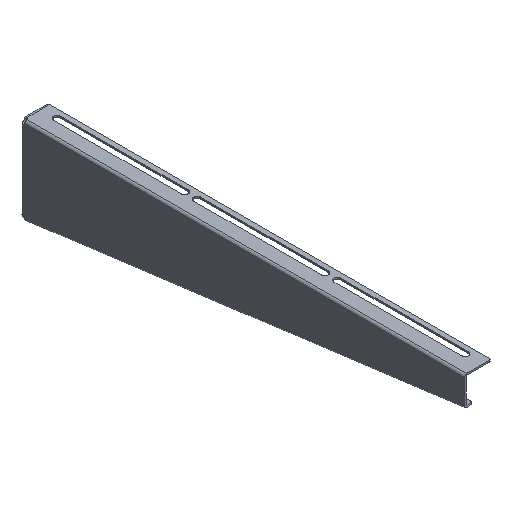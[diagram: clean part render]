
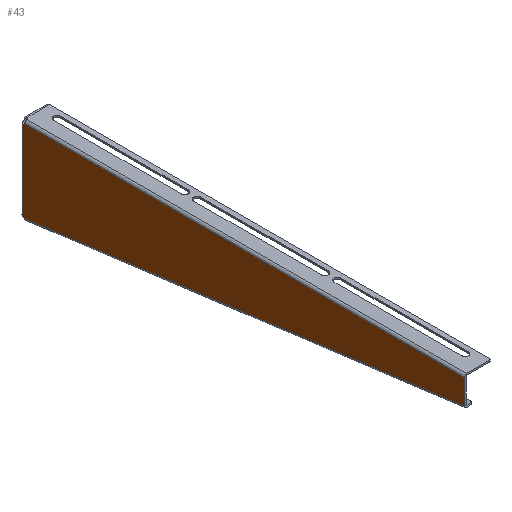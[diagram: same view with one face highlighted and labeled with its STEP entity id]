
A CAD part, isometric view. The second image highlights one B-rep face of the part: STEP entity #43.
In plain terms, the highlighted planar face has unit normal (-1, 0, 0).
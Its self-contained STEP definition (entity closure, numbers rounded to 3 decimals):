
#43=ADVANCED_FACE('',(#104),#947,.T.);
#104=FACE_OUTER_BOUND('',#165,.T.);
#165=EDGE_LOOP('',(#297,#298,#299,#300,#301,#302));
#297=ORIENTED_EDGE('',*,*,#565,.T.);
#298=ORIENTED_EDGE('',*,*,#574,.T.);
#299=ORIENTED_EDGE('',*,*,#566,.T.);
#300=ORIENTED_EDGE('',*,*,#567,.T.);
#301=ORIENTED_EDGE('',*,*,#543,.T.);
#302=ORIENTED_EDGE('',*,*,#568,.T.);
#543=EDGE_CURVE('',#852,#832,#684,.T.);
#565=EDGE_CURVE('',#835,#840,#760,.T.);
#566=EDGE_CURVE('',#843,#847,#761,.T.);
#567=EDGE_CURVE('',#847,#852,#762,.T.);
#568=EDGE_CURVE('',#832,#835,#763,.T.);
#574=EDGE_CURVE('',#840,#843,#769,.T.);
#684=B_SPLINE_CURVE_WITH_KNOTS('',3,(#1599,#1600,#1601,#1602),
 .UNSPECIFIED.,.F.,.F.,(4,4),(0.,544.817),.UNSPECIFIED.);
#760=(
BOUNDED_CURVE()
B_SPLINE_CURVE(2,(#1671,#1672,#1673),.UNSPECIFIED.,.F.,.F.)
B_SPLINE_CURVE_WITH_KNOTS((3,3),(-992.666,-552.157),
 .UNSPECIFIED.)
CURVE()
GEOMETRIC_REPRESENTATION_ITEM()
RATIONAL_B_SPLINE_CURVE((1.,1.,1.))
REPRESENTATION_ITEM('')
);
#761=(
BOUNDED_CURVE()
B_SPLINE_CURVE(2,(#1674,#1675,#1676),.UNSPECIFIED.,.F.,.F.)
B_SPLINE_CURVE_WITH_KNOTS((3,3),(-549.46,-450.209),
 .UNSPECIFIED.)
CURVE()
GEOMETRIC_REPRESENTATION_ITEM()
RATIONAL_B_SPLINE_CURVE((1.,1.,1.))
REPRESENTATION_ITEM('')
);
#762=(
BOUNDED_CURVE()
B_SPLINE_CURVE(2,(#1677,#1678,#1679,#1680,#1681),.UNSPECIFIED.,.F.,.F.)
B_SPLINE_CURVE_WITH_KNOTS((3,2,3),(-450.209,-448.861,-447.909),
 .UNSPECIFIED.)
CURVE()
GEOMETRIC_REPRESENTATION_ITEM()
RATIONAL_B_SPLINE_CURVE((1.,1.017,1.086,1.03,
1.))
REPRESENTATION_ITEM('')
);
#763=(
BOUNDED_CURVE()
B_SPLINE_CURVE(2,(#1682,#1683,#1684),.UNSPECIFIED.,.F.,.F.)
B_SPLINE_CURVE_WITH_KNOTS((3,3),(-1.797,30.181),
 .UNSPECIFIED.)
CURVE()
GEOMETRIC_REPRESENTATION_ITEM()
RATIONAL_B_SPLINE_CURVE((1.,1.,1.))
REPRESENTATION_ITEM('')
);
#769=(
BOUNDED_CURVE()
B_SPLINE_CURVE(2,(#1704,#1705,#1706,#1707,#1708),.UNSPECIFIED.,.F.,.F.)
B_SPLINE_CURVE_WITH_KNOTS((3,2,3),(-552.157,-550.809,
-549.46),.UNSPECIFIED.)
CURVE()
GEOMETRIC_REPRESENTATION_ITEM()
RATIONAL_B_SPLINE_CURVE((1.,1.017,1.086,1.017,
1.))
REPRESENTATION_ITEM('')
);
#832=VERTEX_POINT('',#1452);
#835=VERTEX_POINT('',#1455);
#840=VERTEX_POINT('',#1460);
#843=VERTEX_POINT('',#1463);
#847=VERTEX_POINT('',#1467);
#852=VERTEX_POINT('',#1472);
#947=PLANE('',#1079);
#1079=AXIS2_PLACEMENT_3D('',#1407,#1131,$);
#1131=DIRECTION('',(-1.,0.,0.));
#1407=CARTESIAN_POINT('',(1.751,-609.75,-49.82));
#1452=CARTESIAN_POINT('',(1.751,-542.,-92.61));
#1455=CARTESIAN_POINT('',(1.751,-542.,-62.445));
#1460=CARTESIAN_POINT('',(1.751,-1.828,-62.445));
#1463=CARTESIAN_POINT('',(1.751,0.,-64.274));
#1467=CARTESIAN_POINT('',(1.751,0.,-161.988));
#1472=CARTESIAN_POINT('',(1.751,-1.669,-163.446));
#1599=CARTESIAN_POINT('',(1.751,-1.669,-163.446));
#1600=CARTESIAN_POINT('',(1.751,-181.778,-139.834));
#1601=CARTESIAN_POINT('',(1.751,-361.891,-116.222));
#1602=CARTESIAN_POINT('',(1.751,-542.,-92.61));
#1671=CARTESIAN_POINT('',(1.751,-542.,-62.445));
#1672=CARTESIAN_POINT('',(1.751,-271.914,-62.445));
#1673=CARTESIAN_POINT('',(1.751,-1.828,-62.445));
#1674=CARTESIAN_POINT('',(1.751,0.,-64.274));
#1675=CARTESIAN_POINT('',(1.751,0.,-113.131));
#1676=CARTESIAN_POINT('',(1.751,0.,-161.988));
#1677=CARTESIAN_POINT('',(1.751,0.,-161.988));
#1678=CARTESIAN_POINT('',(1.751,-0.641,-162.215));
#1679=CARTESIAN_POINT('',(1.751,-1.121,-162.696));
#1680=CARTESIAN_POINT('',(1.751,-1.454,-163.028));
#1681=CARTESIAN_POINT('',(1.751,-1.669,-163.446));
#1682=CARTESIAN_POINT('',(1.751,-542.,-92.61));
#1683=CARTESIAN_POINT('',(1.751,-542.,-77.528));
#1684=CARTESIAN_POINT('',(1.751,-542.,-62.445));
#1704=CARTESIAN_POINT('',(1.751,-1.828,-62.445));
#1705=CARTESIAN_POINT('',(1.751,-1.602,-63.086));
#1706=CARTESIAN_POINT('',(1.751,-1.121,-63.567));
#1707=CARTESIAN_POINT('',(1.751,-0.641,-64.047));
#1708=CARTESIAN_POINT('',(1.751,0.,-64.274));
